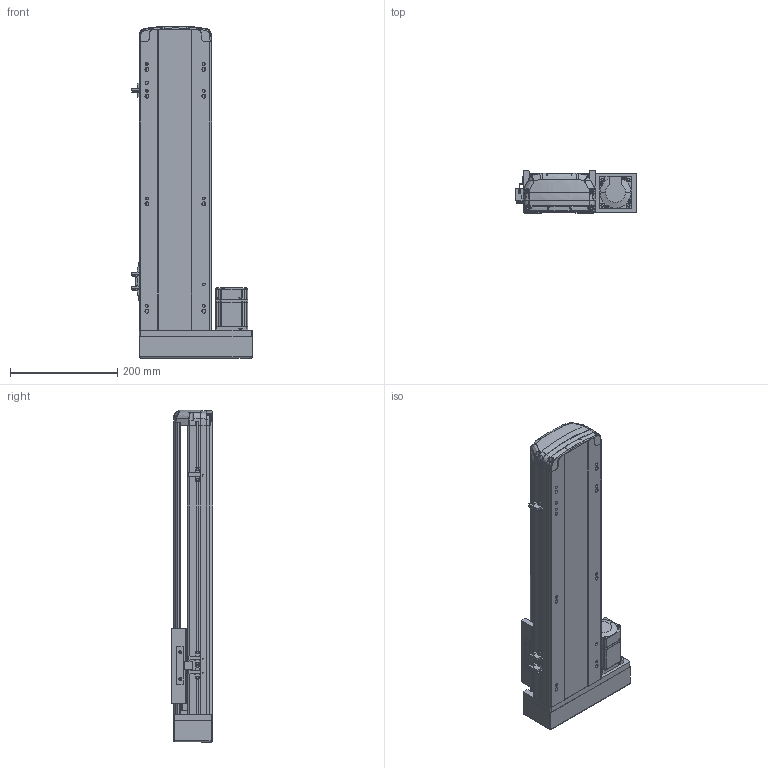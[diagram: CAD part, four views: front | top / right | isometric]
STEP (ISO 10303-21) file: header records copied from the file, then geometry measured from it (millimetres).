
FILE_DESCRIPTION (( 'STEP AP214' ), '1' );
FILE_NAME ('RTH14-XX-350-R-M20-C4.STEP', '2025-10-24T09:52:53', ( 'Microsoft' ), ( 'Microsoft' ), 'SwSTEP 2.0', 'SolidWorks 2018', '' );
FILE_SCHEMA (( 'AUTOMOTIVE_DESIGN' ));
Length unit declared in the file: millimetre
Products named in the file (10): N_RTH13-L-012感应片（外置）^RTH14-XX-XX-R-M20-C4; N_RTH14-M-011P菁釱^RTH14-XX-XX-R-M20-C4; RTH14-XX-350-R-M20-C4; N_MSMD022P1AA_200W^RTH14-XX-XX-R-M20-C4; N_RTH13-L-008-P20 萇儂啣酘蛌殏^RTH14-XX-XX-R-M20-C4; N_RTH13-L-018 裔赽^RTH14-XX-XX-R-M20-C4; N_RTH14-GY-001P^RTH14-XX-XX-R-M20-C4; N_OMRON EE-SX672 传感器^RTH14-XX-XX-R-M20-C4; N_RTH14-M-007P奻裔^RTH14-XX-XX-R-M20-C4; N_RTH14-R-004-SFSR16賑釱^RTH14-XX-XX-R-M20-C4
Assembly tree (11 placements, depth 2):
  RTH14-XX-350-R-M20-C4
    N_RTH14-M-011P菁釱^RTH14-XX-XX-R-M20-C4
    N_RTH14-M-007P奻裔^RTH14-XX-XX-R-M20-C4
    N_MSMD022P1AA_200W^RTH14-XX-XX-R-M20-C4
    N_RTH13-L-008-P20 萇儂啣酘蛌殏^RTH14-XX-XX-R-M20-C4
    N_RTH13-L-018 裔赽^RTH14-XX-XX-R-M20-C4
    N_RTH13-L-012感应片（外置）^RTH14-XX-XX-R-M20-C4
    N_OMRON EE-SX672 传感器^RTH14-XX-XX-R-M20-C4  x3
    N_RTH14-R-004-SFSR16賑釱^RTH14-XX-XX-R-M20-C4
    N_RTH14-GY-001P^RTH14-XX-XX-R-M20-C4
Bounding box: 224 x 78.03 x 617.73 mm (x, y, z)
Volume: 2985948 mm3; surface area: 721669.3 mm2
Topology: 10 solids, 12 shells, 1855 faces, 5188 edges, 3401 vertices
Faces by surface type: plane 987, cylinder 473, bspline 346, cone 45, torus 4
Entity records: 56579 total; most frequent: CARTESIAN_POINT 22959, ORIENTED_EDGE 7433, DIRECTION 5926, EDGE_CURVE 3722, VERTEX_POINT 2437, LINE 2140, VECTOR 2140, AXIS2_PLACEMENT_3D 1893
